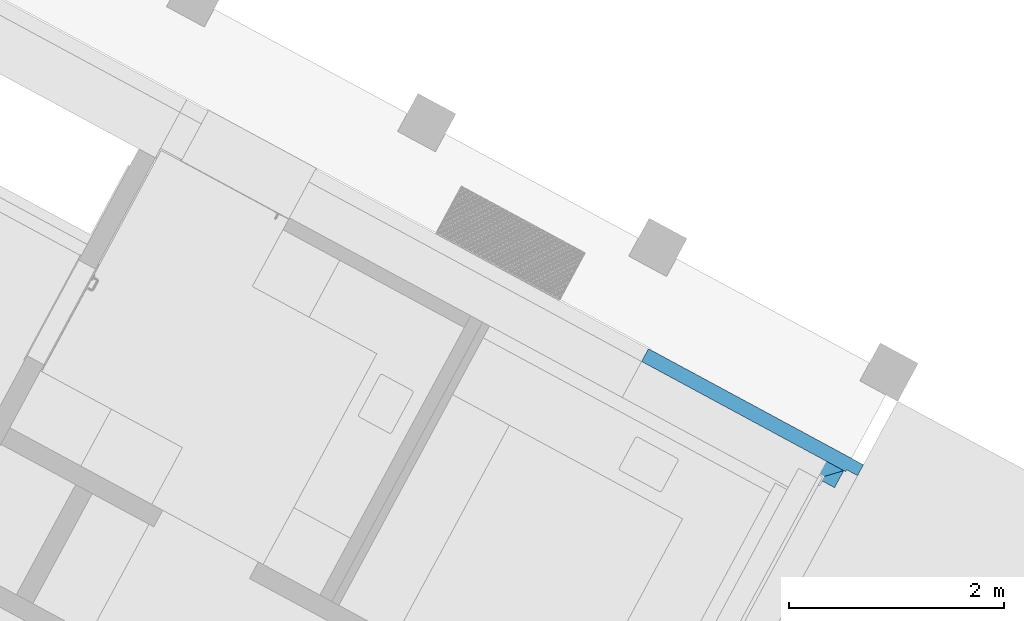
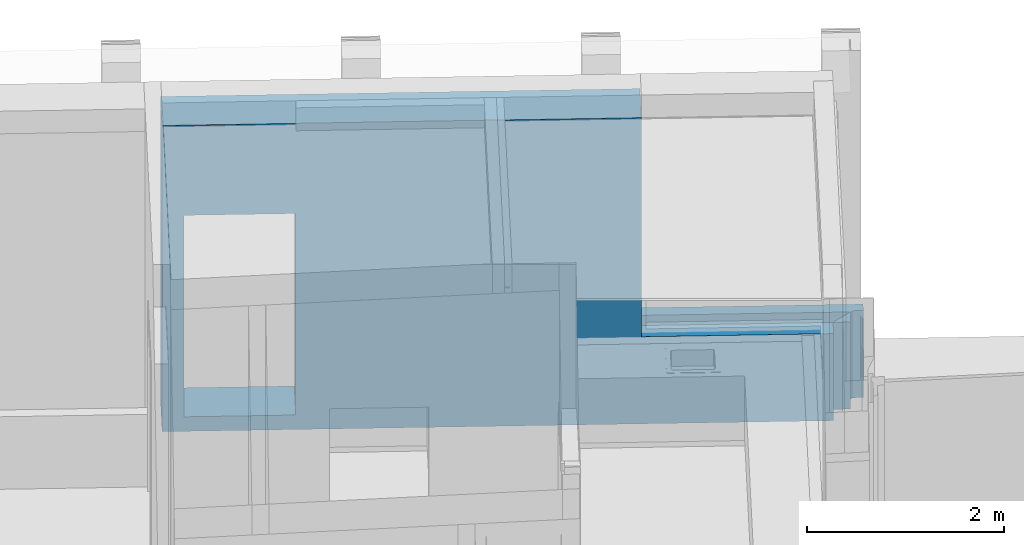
# One storey, part 21 of 52: 1 wall, 2 openings.
"""IFC2X3 building model written with IfcOpenShell, lengths in metres."""

from ifc_helpers import new_model, entity, si_unit, converted_unit, derived_unit, money_unit, direction, frame, origin_with_axes, origin_2d_with_axis, place, context, subcontext, project, spatial, rectangle, extrude, faceted_brep, material, material_list, type_object, element, save


model = new_model("IFC2X3")

# Units and contexts
model_context = context("Model", 3, precision=1e-05, world=origin_with_axes(), true_north=direction((0.0, 1.0)))
body_context = subcontext(model_context, "Body", "Model", "MODEL_VIEW")
ifc_project = project(units=[si_unit("LENGTHUNIT", "METRE"), si_unit("AREAUNIT", "SQUARE_METRE"), si_unit("VOLUMEUNIT", "CUBIC_METRE"), converted_unit("PLANEANGLEUNIT", "DEGREE", entity("IfcPlaneAngleMeasure", 0.0174532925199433), si_unit("PLANEANGLEUNIT", "RADIAN"), dimensions=[0, 0, 0, 0, 0, 0, 0]), money_unit("EUR"), converted_unit("TIMEUNIT", "Year", entity("IfcTimeMeasure", 31556926.0), si_unit("TIMEUNIT", "SECOND"), dimensions=[0, 0, 1, 0, 0, 0, 0]), si_unit("MASSUNIT", "GRAM", prefix="KILO"), si_unit("THERMODYNAMICTEMPERATUREUNIT", "DEGREE_CELSIUS"), si_unit("LUMINOUSINTENSITYUNIT", "LUMEN"), si_unit("ENERGYUNIT", "JOULE", prefix="MEGA"), derived_unit("THERMALCONDUCTANCEUNIT", [(si_unit("POWERUNIT", "WATT"), 1), (si_unit("LENGTHUNIT", "METRE"), -1), (si_unit("THERMODYNAMICTEMPERATUREUNIT", "KELVIN"), -1)]), derived_unit("SPECIFICHEATCAPACITYUNIT", [(si_unit("ENERGYUNIT", "JOULE"), 1), (si_unit("MASSUNIT", "GRAM", prefix="KILO"), -1), (si_unit("THERMODYNAMICTEMPERATUREUNIT", "KELVIN"), -1)]), derived_unit("MASSDENSITYUNIT", [(si_unit("MASSUNIT", "GRAM", prefix="KILO"), 1), (si_unit("VOLUMEUNIT", "CUBIC_METRE"), -1)])], contexts=[model_context])

# Site, building, storey
site_placement = place(None, frame((-3.949935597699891, 1.740105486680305, 0.0), z_axis=(0.0, 0.0, 1.0), x_axis=(0.8799804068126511, -0.475009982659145, 0.0)))
site = spatial("IfcSite", under=ifc_project, at=site_placement, Name="Gelände", CompositionType="ELEMENT")
building_placement = place(site_placement, origin_with_axes())
building = spatial("IfcBuilding", under=site, at=building_placement, Name="Gebäude", CompositionType="ELEMENT")
storey_placement = place(building_placement, origin_with_axes())
storey = spatial("IfcBuildingStorey", under=building, at=storey_placement, Name="Erdgeschoss", CompositionType="ELEMENT", Elevation=0.0)

# Wall, openings
ifc_material_1 = material(Name="_SIWH - Beton, Stahlbeton")
ifc_material_2 = material(Name="_SIWH - Dämmung, weich Mineralwolle")
ifc_material_3 = material(Name="_SIWH - Luftschicht vertikal")
ifc_material_4 = material(Name="_SIWH - MW Vormauerziegel")
ifc_material_list = material_list([ifc_material_1, ifc_material_2, ifc_material_3, ifc_material_4])
wall_type = type_object("IfcWallType", Name="_SIWH - WA | Stb. 20+WD 18+LS 2+Verblender 11,5 | 51,5cm 515", PredefinedType="NOTDEFINED")
wall_placement = place(storey_placement, frame((17.3674759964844, 19.20028827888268, -0.1800000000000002), z_axis=(0.0, 0.0, 1.0), x_axis=(-0.9999999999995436, 9.555231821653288e-07, 0.0)))
wall = element("IfcWall", 1, at=wall_placement, inside=storey, type_object=wall_type, material=ifc_material_list, Name="A-Wand001", context=body_context, shape_type="Brep", body=[
    faceted_brep([(1.955006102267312, -1.735654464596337e-08, 3.800000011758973), (1.955006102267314, 0.0, 1.08), (6.265148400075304e-07, -6.265052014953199e-07, 1.08), (0.0, 0.0, 0.0), (6.830081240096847, 0.0, 0.0), (6.830081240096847, 0.0, 3.800000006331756), (6.605083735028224, 0.0, 2.68), (6.605083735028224, 0.0, 0.1800000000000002), (5.470083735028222, 0.0, 0.1800000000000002), (5.470083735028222, 0.0, 2.68), (1.955006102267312, 0.1249999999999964, 3.800000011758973), (1.955006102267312, 0.1249999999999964, 1.08), (0.1249993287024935, 0.125, 1.08), (0.1249989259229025, 0.1999999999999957, 1.08), (-1.074078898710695e-06, 0.1999999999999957, 1.08), (-1.074078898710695e-06, 0.1999999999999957, 0.0), (6.830081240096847, 0.1999999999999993, 0.0), (6.830081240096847, 0.1999999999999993, 3.800000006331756), (1.955006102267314, 0.1999999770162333, 3.800000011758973), (6.605083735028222, 0.1999999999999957, 0.1800000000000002), (6.605083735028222, 0.1999999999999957, 2.68), (5.470083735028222, 0.1999999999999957, 0.1800000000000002), (5.470083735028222, 0.1999999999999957, 2.68), (1.955006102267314, 0.1999999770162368, 1.08), (0.1999989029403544, 0.1999999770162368, 1.08)], [[[0, 1, 2, 3, 4, 5], [6, 7, 8, 9]], [[1, 0, 10, 11]], [[2, 1, 11, 12, 13, 14]], [[2, 14, 15, 3]], [[3, 15, 16, 4]], [[5, 4, 16, 17]], [[10, 0, 5, 17, 18]], [[19, 7, 6, 20]], [[21, 8, 7, 19]], [[22, 9, 8, 21]], [[20, 6, 9, 22]], [[10, 18, 23, 11]], [[12, 11, 23, 24, 13]], [[23, 18, 17, 16, 15, 14, 13, 24], [21, 19, 20, 22]]]),
    faceted_brep([(1.955006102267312, -0.180000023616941, 3.800000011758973), (1.955006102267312, -0.1799999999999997, 1.08), (-0.1799975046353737, -0.1800015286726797, 1.08), (-0.1799990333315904, -0.1799999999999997, 0.0), (2.844999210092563, -0.1800000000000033, 0.0), (2.844999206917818, -0.1800000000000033, 0.07500000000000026), (2.914999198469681, -0.1799999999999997, 0.07500000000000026), (2.914999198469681, -0.1799999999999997, 0.0), (4.184999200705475, -0.1800000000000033, 0.0), (4.184999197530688, -0.1799999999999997, 0.07500000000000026), (4.254999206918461, -0.1799999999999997, 0.07500000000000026), (4.254999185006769, -0.1799999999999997, 0.0), (6.830081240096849, -0.1800000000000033, 0.0), (6.830081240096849, -0.1800000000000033, 3.800000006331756), (6.605083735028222, -0.1799999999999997, 2.68), (6.605083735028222, -0.1799999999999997, 0.1800000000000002), (5.470083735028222, -0.1799999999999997, 0.1800000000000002), (5.470083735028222, -0.1799999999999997, 2.68), (1.955006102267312, -1.735654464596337e-08, 3.800000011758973), (1.955006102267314, 0.0, 1.08), (-0.1800000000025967, 0.0, 1.08), (-0.1800000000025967, 0.0, 0.0), (2.914999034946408, -2.379013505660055e-05, 0.0), (2.84499903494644, -2.385702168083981e-05, 0.0), (6.830081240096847, 0.0, 0.0), (4.254999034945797, -2.250973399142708e-05, 0.0), (4.184999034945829, -2.257662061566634e-05, 0.0), (2.84499903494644, -2.385702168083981e-05, 0.07500000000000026), (2.914999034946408, -2.379013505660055e-05, 0.07500000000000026), (4.184999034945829, -2.257662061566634e-05, 0.07500000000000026), (4.254999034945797, -2.250973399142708e-05, 0.07500000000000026), (6.830081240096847, 0.0, 3.800000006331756), (6.605083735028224, 0.0, 0.1800000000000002), (6.605083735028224, 0.0, 2.68), (5.470083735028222, 0.0, 0.1800000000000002), (5.470083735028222, 0.0, 2.68)], [[[0, 1, 2, 3, 4, 5, 6, 7, 8, 9, 10, 11, 12, 13], [14, 15, 16, 17]], [[1, 0, 18, 19]], [[2, 1, 19, 20]], [[2, 20, 21, 3]], [[8, 7, 22, 23, 4, 3, 21, 24, 12, 11, 25, 26]], [[5, 4, 23, 27]], [[6, 5, 27, 28]], [[7, 6, 28, 22]], [[9, 8, 26, 29]], [[10, 9, 29, 30]], [[11, 10, 30, 25]], [[31, 13, 12, 24]], [[18, 0, 13, 31]], [[32, 15, 14, 33]], [[34, 16, 15, 32]], [[35, 17, 16, 34]], [[33, 14, 17, 35]], [[19, 18, 31, 24, 21, 20], [34, 32, 33, 35]], [[23, 22, 28, 27]], [[26, 25, 30, 29]]]),
    faceted_brep([(1.955006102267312, -0.2000000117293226, 3.800000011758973), (1.955006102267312, -0.1999999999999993, 1.08), (-0.1999972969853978, -0.2000016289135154, 1.08), (-0.1999989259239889, -0.2000000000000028, 0.0), (2.844999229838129, -0.2000000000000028, 0.0), (2.84499922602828, -0.1999999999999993, 0.07500000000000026), (2.914999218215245, -0.1999999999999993, 0.07500000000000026), (2.914999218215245, -0.1999999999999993, 0.0), (4.18499922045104, -0.1999999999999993, 0.0), (4.184999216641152, -0.1999999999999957, 0.07500000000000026), (4.254999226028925, -0.1999999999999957, 0.07500000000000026), (4.254999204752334, -0.1999999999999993, 0.0), (6.830081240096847, -0.1999999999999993, 0.0), (6.830081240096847, -0.1999999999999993, 3.800000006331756), (6.605083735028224, -0.1999999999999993, 2.68), (6.605083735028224, -0.1999999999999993, 0.1800000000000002), (5.470083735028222, -0.1999999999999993, 0.1800000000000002), (5.470083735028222, -0.1999999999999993, 2.68), (1.955006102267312, -0.180000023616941, 3.800000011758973), (1.955006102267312, -0.1799999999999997, 1.08), (-0.1999990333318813, -0.1800000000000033, 1.08), (-0.1999990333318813, -0.1800000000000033, 0.0), (2.844999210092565, -0.1800000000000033, 0.0), (2.844999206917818, -0.1800000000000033, 0.07500000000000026), (2.914999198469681, -0.1799999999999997, 0.07500000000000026), (2.914999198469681, -0.1799999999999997, 0.0), (4.184999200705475, -0.1800000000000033, 0.0), (4.184999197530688, -0.1799999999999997, 0.07500000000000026), (4.254999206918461, -0.1799999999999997, 0.07500000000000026), (4.254999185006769, -0.1799999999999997, 0.0), (6.830081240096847, -0.1800000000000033, 0.0), (6.830081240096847, -0.1800000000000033, 3.800000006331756), (6.605083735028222, -0.1799999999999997, 0.1800000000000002), (6.605083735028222, -0.1799999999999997, 2.68), (5.470083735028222, -0.1799999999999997, 0.1800000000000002), (5.470083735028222, -0.1799999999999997, 2.68)], [[[0, 1, 2, 3, 4, 5, 6, 7, 8, 9, 10, 11, 12, 13], [14, 15, 16, 17]], [[1, 0, 18, 19]], [[2, 1, 19, 20]], [[2, 20, 21, 3]], [[22, 4, 3, 21]], [[5, 4, 22, 23]], [[6, 5, 23, 24]], [[7, 6, 24, 25]], [[7, 25, 26, 8]], [[9, 8, 26, 27]], [[10, 9, 27, 28]], [[11, 10, 28, 29]], [[11, 29, 30, 12]], [[31, 13, 12, 30]], [[18, 0, 13, 31]], [[32, 15, 14, 33]], [[34, 16, 15, 32]], [[35, 17, 16, 34]], [[33, 14, 17, 35]], [[19, 18, 31, 30, 29, 28, 27, 26, 25, 24, 23, 22, 21, 20], [34, 32, 33, 35]]]),
    faceted_brep([(1.955006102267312, -0.3150000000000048, 3.800000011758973), (1.955006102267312, -0.3150000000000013, 1.08), (-0.3149938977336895, -0.3150000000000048, 1.08), (-0.3149983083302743, -0.3150000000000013, 0.0), (2.844999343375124, -0.3150000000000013, 0.0), (2.844999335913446, -0.3150000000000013, 0.07500000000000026), (2.91499933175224, -0.3150000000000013, 0.07500000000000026), (2.91499933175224, -0.3150000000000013, 0.0), (4.184999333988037, -0.3150000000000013, 0.0), (4.184999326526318, -0.3149999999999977, 0.07500000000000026), (4.254999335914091, -0.3149999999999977, 0.07500000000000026), (4.254999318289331, -0.3150000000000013, 0.0), (6.830081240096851, -0.3150000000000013, 0.0), (6.830081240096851, -0.3150000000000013, 3.800000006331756), (6.605083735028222, -0.3150000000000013, 2.68), (6.605083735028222, -0.3150000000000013, 0.1800000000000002), (5.470083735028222, -0.3150000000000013, 0.1800000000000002), (5.470083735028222, -0.3150000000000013, 2.68), (1.955006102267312, -0.2000000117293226, 3.800000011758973), (1.955006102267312, -0.1999999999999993, 1.08), (-0.3149989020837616, -0.1999999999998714, 1.08), (-0.3149989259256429, -0.1999999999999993, 0.0), (2.844999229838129, -0.1999999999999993, 0.0), (2.84499922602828, -0.2000000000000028, 0.07500000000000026), (2.914999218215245, -0.1999999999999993, 0.07500000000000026), (2.914999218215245, -0.1999999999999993, 0.0), (4.18499922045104, -0.1999999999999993, 0.0), (4.184999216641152, -0.1999999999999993, 0.07500000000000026), (4.254999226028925, -0.1999999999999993, 0.07500000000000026), (4.254999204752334, -0.1999999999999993, 0.0), (6.830081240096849, -0.1999999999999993, 0.0), (6.830081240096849, -0.1999999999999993, 3.800000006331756), (6.605083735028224, -0.1999999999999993, 0.1800000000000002), (6.605083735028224, -0.1999999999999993, 2.68), (5.470083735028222, -0.2000000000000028, 0.1800000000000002), (5.470083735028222, -0.2000000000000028, 2.68)], [[[0, 1, 2, 3, 4, 5, 6, 7, 8, 9, 10, 11, 12, 13], [14, 15, 16, 17]], [[1, 0, 18, 19]], [[2, 1, 19, 20]], [[2, 20, 21, 3]], [[22, 4, 3, 21]], [[5, 4, 22, 23]], [[6, 5, 23, 24]], [[7, 6, 24, 25]], [[7, 25, 26, 8]], [[9, 8, 26, 27]], [[10, 9, 27, 28]], [[11, 10, 28, 29]], [[11, 29, 30, 12]], [[31, 13, 12, 30]], [[18, 0, 13, 31]], [[32, 15, 14, 33]], [[34, 16, 15, 32]], [[35, 17, 16, 34]], [[33, 14, 17, 35]], [[19, 18, 31, 30, 29, 28, 27, 26, 25, 24, 23, 22, 21, 20], [34, 32, 33, 35]]]),
])
opening_1_placement = place(wall_placement, frame((1.075006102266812, 0.0, 1.08), z_axis=(0.0, 0.0, 1.0), x_axis=(1.0, 0.0, 0.0)))
element("IfcOpeningElement", 2, at=opening_1_placement, cuts=wall, Name="Eckfenster-008", context=body_context, shape_type="Brep", body=[
    faceted_brep([(0.8800000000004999, 0.125, 2.720000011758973), (-0.9500067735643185, 0.1250000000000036, 2.720000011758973), (-1.390000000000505, -0.3149955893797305, 2.720000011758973), (-1.390000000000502, -0.3160065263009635, 2.720000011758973), (0.8800000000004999, -0.3160065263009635, 2.720000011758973), (0.8800000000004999, 0.2010065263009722, 2.720000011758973), (-0.8740006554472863, 0.2010065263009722, 2.720000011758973), (-0.8740006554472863, 0.2010065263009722, 0.0), (-0.9500067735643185, 0.1250000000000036, 0.0), (-1.390000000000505, -0.3149955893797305, 0.0), (-1.390000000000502, -0.3160065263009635, 0.0), (0.8800000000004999, -0.3160065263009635, 0.0), (0.8800000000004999, 0.125, 0.0), (0.8800000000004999, 0.2010065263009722, 0.0)], [[[0, 1, 2, 3, 4]], [[1, 0, 5, 6]], [[2, 1, 6, 7, 8, 9]], [[9, 10, 3, 2]], [[3, 10, 11, 4]], [[12, 0, 4, 11]], [[0, 12, 13, 5]], [[5, 13, 7, 6]], [[12, 8, 7, 13]], [[8, 12, 11, 10, 9]]]),
])
opening_2_placement = place(wall_placement, frame((6.037583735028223, 0.0, 0.1800000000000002), z_axis=(0.0, 0.0, 1.0), x_axis=(1.0, 0.0, 0.0)))
element("IfcOpeningElement", 3, at=opening_2_placement, cuts=wall, Name="Tür-017", context=body_context, shape_type="SweptSolid", body=[
    extrude(rectangle(XDim=1.134999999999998, YDim=2.5, at=origin_2d_with_axis()), frame((0.0, 0.5150000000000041, 1.25), z_axis=(0.0, -1.0, 0.0), x_axis=(1.0, 0.0, 0.0)), (0.0, 0.0, 1.0), 1.545),
])

save(model, "model.ifc")
